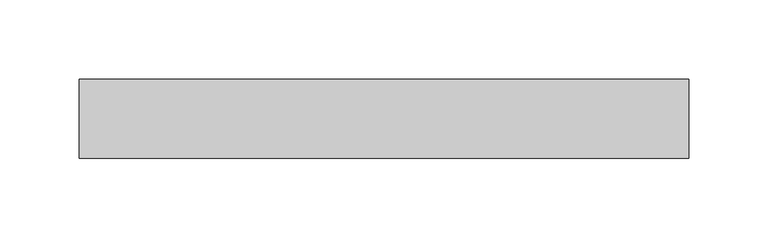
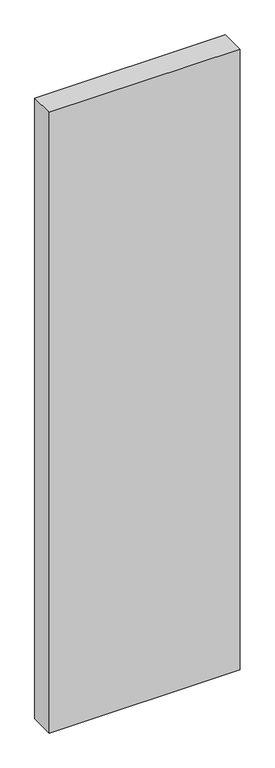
"""IFC4 building model written with IfcOpenShell, lengths in millimetres: plate geometry, Системная панель : Стекло(50мм)."""

from ifc_helpers import new_model, si_unit, origin, origin_with_axes, place, context, project, spatial, polyline, outline, extrude, source, transform, mapped, element, save


def plate_20944b83(model_context):
    return source(origin(), model_context, "Body", "SweptSolid", [
        extrude(outline(polyline([(192.7252644, -25.0), (-192.7252644, -25.0), (-192.7252644, 25.0), (192.7252644, 25.0), (192.7252644, -25.0)])), origin_with_axes(), (0.0, 0.0, 1.0), 1325.0),
    ])


if __name__ == "__main__":
    model = new_model("IFC4")
    model_context = context("Model", 3, world=origin())
    ifc_project = project(units=[si_unit("LENGTHUNIT", "METRE", prefix="MILLI")], contexts=[model_context])
    site = spatial("IfcSite", under=ifc_project)
    building = spatial("IfcBuilding", under=site)
    placement = place(None, origin())
    plate_shape = plate_20944b83(model_context)
    element("IfcPlate", 1, ObjectType="Системная панель : Стекло(50мм)", at=placement, inside=building, context=model_context, shape_type="MappedRepresentation", body=[
        mapped(plate_shape, transform((0.0, 0.0, 0.0), x_axis=(1.0, 0.0, 0.0), y_axis=(0.0, 1.0, 0.0), z_axis=(0.0, 0.0, 1.0))),
    ])
    save(model, "model.ifc")
